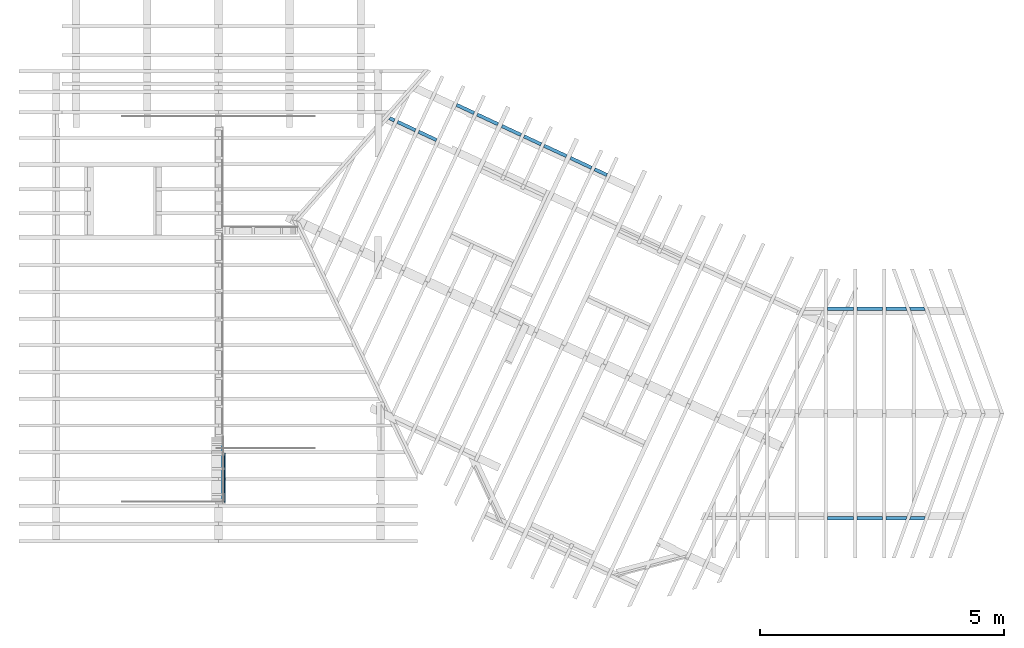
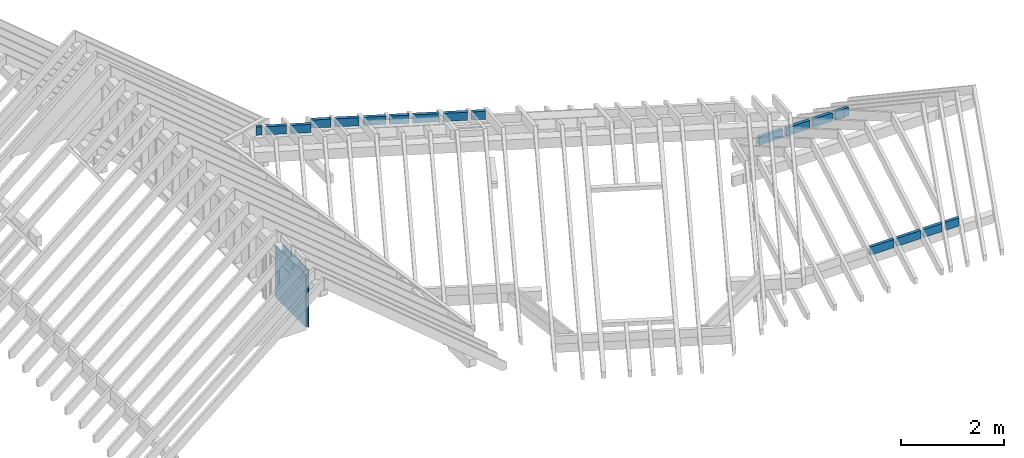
# One storey, part 9 of 11: 18 members, 2 plates.
"""IFC2X3 building model written with IfcOpenShell, lengths in metres."""

from ifc_helpers import new_model, si_unit, direction, frame, origin_with_axes, place, context, subcontext, project, spatial, faceted_brep, material, element, save


model = new_model("IFC2X3")

# Units and contexts
model_context = context("Model", 3, precision=1e-06, world=origin_with_axes(), true_north=direction((0.0, 1.0, 0.0)))
body_context = subcontext(model_context, "Body", "Model", "MODEL_VIEW")
ifc_project = project(units=[si_unit("LENGTHUNIT", "METRE"), si_unit("AREAUNIT", "SQUARE_METRE"), si_unit("VOLUMEUNIT", "CUBIC_METRE"), si_unit("PLANEANGLEUNIT", "RADIAN")], contexts=[model_context])

# Site, building, storey
site_placement = place(None, origin_with_axes())
site = spatial("IfcSite", under=ifc_project, at=site_placement, CompositionType="ELEMENT")
building_placement = place(site_placement, origin_with_axes())
building = spatial("IfcBuilding", under=site, at=building_placement, Name="Building 1", CompositionType="ELEMENT")
storey_placement = place(building_placement, origin_with_axes())
storey = spatial("IfcBuildingStorey", under=building, at=storey_placement, Name="Comble et couverture", CompositionType="ELEMENT", Elevation=0.0)

# Members
ifc_material_1 = material(Name="NH II")
member_1_placement = place(storey_placement, frame((17.054553, -0.3402201, 3.276), z_axis=(0.0, 0.0, 1.0), x_axis=(1.0, 0.0, 0.0)))
element("IfcMember", 1, at=member_1_placement, inside=storey, material=ifc_material_1, Name="Cache moineau", context=body_context, shape_type="Brep", body=[
    faceted_brep([(0.0, 0.035, -0.096), (0.0, -0.035, -0.096), (0.0, -0.035, 0.096), (0.0, 0.035, 0.096), (0.404725, -0.035, -0.096), (0.404725, -0.035, 0.096), (0.4302029, 0.035, -0.096), (0.4302029, 0.035, 0.096)], [[[0, 1, 2, 3]], [[2, 1, 4, 5]], [[1, 0, 6, 4]], [[5, 4, 6, 7]], [[3, 2, 5, 7]], [[0, 3, 7, 6]]]),
])
for number, where, z_axis, x_axis in (
    (2, (16.454553, -0.3402201, 3.276), (0.0, 0.0, 1.0), (1.0, 0.0, 0.0)),
    (3, (15.854553, -0.3402201, 3.276), (0.0, 0.0, 1.0), (1.0, 0.0, 0.0)),
    (4, (16.454553, 3.9597799, 3.276), (0.0, 0.0, 1.0), (1.0, 0.0, 0.0)),
):
    element("IfcMember", number, at=place(storey_placement, frame(where, z_axis=z_axis, x_axis=x_axis)), inside=storey, material=ifc_material_1, Name="Cache moineau", context=body_context, shape_type="Brep", body=[
        faceted_brep([(0.0, -0.035, 0.096), (0.0, 0.035, 0.096), (0.0, 0.035, -0.096), (0.0, -0.035, -0.096), (0.53, 0.035, 0.096), (0.53, 0.035, -0.096), (0.53, -0.035, 0.096), (0.53, -0.035, -0.096)], [[[0, 1, 2, 3]], [[2, 1, 4, 5]], [[1, 0, 6, 4]], [[5, 4, 6, 7]], [[3, 2, 5, 7]], [[0, 3, 7, 6]]]),
    ])
member_2_placement = place(storey_placement, frame((17.054553, 3.9597799, 3.276), z_axis=(0.0, 0.0, 1.0), x_axis=(1.0, 0.0, 0.0)))
element("IfcMember", 5, at=member_2_placement, inside=storey, material=ifc_material_1, Name="Cache moineau", context=body_context, shape_type="Brep", body=[
    faceted_brep([(0.0, 0.035, -0.096), (0.0, -0.035, -0.096), (0.0, -0.035, 0.096), (0.0, 0.035, 0.096), (0.430203, -0.035, -0.096), (0.430203, -0.035, 0.096), (0.4047251, 0.035, -0.096), (0.4047251, 0.035, 0.096)], [[[0, 1, 2, 3]], [[2, 1, 4, 5]], [[1, 0, 6, 4]], [[5, 4, 6, 7]], [[3, 2, 5, 7]], [[0, 3, 7, 6]]]),
])
member_3_placement = place(storey_placement, frame((17.5337705, 3.9597799, 3.276), z_axis=(0.0, 0.0, 1.0), x_axis=(1.0, 0.0, 0.0)))
element("IfcMember", 6, at=member_3_placement, inside=storey, material=ifc_material_1, Name="Cache moineau", context=body_context, shape_type="Brep", body=[
    faceted_brep([(0.0254779, -0.035, 0.096), (0.0, 0.035, 0.096), (0.0, 0.035, -0.096), (0.0254779, -0.035, -0.096), (0.2999056, 0.035, 0.096), (0.2999056, 0.035, -0.096), (0.3253835, -0.035, 0.096), (0.3253835, -0.035, -0.096)], [[[0, 1, 2, 3]], [[2, 1, 4, 5]], [[1, 0, 6, 4]], [[4, 6, 7, 5]], [[3, 2, 5, 7]], [[0, 3, 7, 6]]]),
])
member_4_placement = place(storey_placement, frame((15.854553, 3.9597799, 3.276), z_axis=(0.0, 0.0, 1.0), x_axis=(1.0, 0.0, 0.0)))
element("IfcMember", 7, at=member_4_placement, inside=storey, material=ifc_material_1, Name="Cache moineau", context=body_context, shape_type="Brep", body=[
    faceted_brep([(0.0, -0.035, 0.096), (0.0, 0.035, 0.096), (0.0, 0.035, -0.096), (0.0, -0.035, -0.096), (0.53, 0.035, 0.096), (0.53, 0.035, -0.096), (0.53, -0.035, 0.096), (0.53, -0.035, -0.096)], [[[0, 1, 2, 3]], [[2, 1, 4, 5]], [[1, 0, 6, 4]], [[5, 4, 6, 7]], [[3, 2, 5, 7]], [[0, 3, 7, 6]]]),
])
member_5_placement = place(storey_placement, frame((17.5337705, -0.3402201, 3.276), z_axis=(0.0, 0.0, 1.0), x_axis=(1.0, 0.0, 0.0)))
element("IfcMember", 8, at=member_5_placement, inside=storey, material=ifc_material_1, Name="Cache moineau", context=body_context, shape_type="Brep", body=[
    faceted_brep([(0.0, -0.035, 0.096), (0.0254779, 0.035, 0.096), (0.0254779, 0.035, -0.096), (0.0, -0.035, -0.096), (0.3253836, 0.035, 0.096), (0.3253836, 0.035, -0.096), (0.2999057, -0.035, 0.096), (0.2999057, -0.035, -0.096)], [[[0, 1, 2, 3]], [[2, 1, 4, 5]], [[1, 0, 6, 4]], [[4, 6, 7, 5]], [[3, 2, 5, 7]], [[0, 3, 7, 6]]]),
])
member_6_placement = place(storey_placement, frame((7.0295991, 7.7967985, 4.2870549), z_axis=(0.0, 0.0, 1.0), x_axis=(0.9063078, -0.4226183, 0.0)))
element("IfcMember", 9, at=member_6_placement, inside=storey, material=ifc_material_1, Name="Cache moineau", context=body_context, shape_type="Brep", body=[
    faceted_brep([(0.4063936, -0.035, 0.096), (0.4063936, -0.035, -0.096), (0.4063936, 0.035, -0.096), (0.4063936, 0.035, 0.096), (0.0, -0.035, -0.096), (0.0, 0.035, -0.096), (0.0, -0.035, 0.096), (0.0, 0.035, 0.096)], [[[0, 1, 2, 3]], [[2, 1, 4, 5]], [[1, 0, 6, 4]], [[5, 4, 6, 7]], [[3, 2, 5, 7]], [[0, 3, 7, 6]]]),
])
member_7_placement = place(storey_placement, frame((8.6643852, 7.9483225, 3.8088831), z_axis=(0.0, 0.0, 1.0), x_axis=(0.9063078, -0.4226183, 0.0)))
element("IfcMember", 10, at=member_7_placement, inside=storey, material=ifc_material_1, Name="Cache moineau", context=body_context, shape_type="Brep", body=[
    faceted_brep([(0.4682048, 0.035, 0.096), (0.4682048, -0.035, 0.096), (0.4682048, -0.035, -0.096), (0.4682048, 0.035, -0.096), (0.0, -0.035, 0.096), (0.0, -0.035, -0.096), (0.0, 0.035, 0.096), (0.0, 0.035, -0.096)], [[[0, 1, 2, 3]], [[2, 1, 4, 5]], [[1, 0, 6, 4]], [[5, 4, 6, 7]], [[3, 2, 5, 7]], [[0, 3, 7, 6]]]),
])
member_8_placement = place(storey_placement, frame((9.1721244, 7.7116153, 3.8088831), z_axis=(0.0, 0.0, 1.0), x_axis=(0.9063078, -0.4226183, 0.0)))
element("IfcMember", 11, at=member_8_placement, inside=storey, material=ifc_material_1, Name="Cache moineau", context=body_context, shape_type="Brep", body=[
    faceted_brep([(0.433, 0.035, 0.096), (0.433, -0.035, 0.096), (0.433, -0.035, -0.096), (0.433, 0.035, -0.096), (0.0, -0.035, 0.096), (0.0, -0.035, -0.096), (0.0, 0.035, 0.096), (0.0, 0.035, -0.096)], [[[0, 1, 2, 3]], [[2, 1, 4, 5]], [[1, 0, 6, 4]], [[5, 4, 6, 7]], [[3, 2, 5, 7]], [[0, 3, 7, 6]]]),
])
member_9_placement = place(storey_placement, frame((8.2431377, 8.1447534, 3.8088831), z_axis=(0.0, 0.0, 1.0), x_axis=(0.9063078, -0.4226183, 0.0)))
element("IfcMember", 12, at=member_9_placement, inside=storey, material=ifc_material_1, Name="Cache moineau", context=body_context, shape_type="Brep", body=[
    faceted_brep([(0.3947953, -0.035, -0.096), (0.3947953, 0.035, -0.096), (0.3947953, 0.035, 0.096), (0.3947953, -0.035, 0.096), (0.0, 0.035, -0.096), (0.0, 0.035, 0.096), (0.0, -0.035, -0.096), (0.0, -0.035, 0.096)], [[[0, 1, 2, 3]], [[2, 1, 4, 5]], [[1, 0, 6, 4]], [[0, 3, 7, 6]], [[3, 2, 5, 7]], [[5, 4, 6, 7]]]),
])
member_10_placement = place(storey_placement, frame((10.5786929, 7.0556662, 3.8088831), z_axis=(0.0, 0.0, 1.0), x_axis=(0.9063078, -0.4226183, 0.0)))
element("IfcMember", 13, at=member_10_placement, inside=storey, material=ifc_material_1, Name="Cache moineau", context=body_context, shape_type="Brep", body=[
    faceted_brep([(0.0, -0.035, -0.096), (0.0, -0.035, 0.096), (0.0, 0.035, 0.096), (0.0, 0.035, -0.096), (0.476, -0.035, 0.096), (0.476, 0.035, 0.096), (0.476, -0.035, -0.096), (0.476, 0.035, -0.096)], [[[0, 1, 2, 3]], [[2, 1, 4, 5]], [[1, 0, 6, 4]], [[0, 3, 7, 6]], [[7, 5, 4, 6]], [[3, 2, 5, 7]]]),
])
member_11_placement = place(storey_placement, frame((9.627976, 7.4989927, 3.8088831), z_axis=(0.0, 0.0, 1.0), x_axis=(0.9063078, -0.4226183, 0.0)))
element("IfcMember", 14, at=member_11_placement, inside=storey, material=ifc_material_1, Name="Cache moineau", context=body_context, shape_type="Brep", body=[
    faceted_brep([(0.384, -0.035, -0.096), (0.384, 0.035, -0.096), (0.384, 0.035, 0.096), (0.384, -0.035, 0.096), (0.0, 0.035, -0.096), (0.0, 0.035, 0.096), (0.0, -0.035, -0.096), (0.0, -0.035, 0.096)], [[[0, 1, 2, 3]], [[2, 1, 4, 5]], [[1, 0, 6, 4]], [[5, 4, 6, 7]], [[3, 2, 5, 7]], [[0, 3, 7, 6]]]),
])
member_12_placement = place(storey_placement, frame((10.0394397, 7.307124, 3.8088831), z_axis=(0.0, 0.0, 1.0), x_axis=(0.9063078, -0.4226183, 0.0)))
element("IfcMember", 15, at=member_12_placement, inside=storey, material=ifc_material_1, Name="Cache moineau", context=body_context, shape_type="Brep", body=[
    faceted_brep([(0.503, 0.035, 0.096), (0.503, -0.035, 0.096), (0.503, -0.035, -0.096), (0.503, 0.035, -0.096), (0.0, -0.035, 0.096), (0.0, -0.035, -0.096), (0.0, 0.035, 0.096), (0.0, 0.035, -0.096)], [[[0, 1, 2, 3]], [[2, 1, 4, 5]], [[1, 0, 6, 4]], [[5, 4, 6, 7]], [[3, 2, 5, 7]], [[0, 3, 7, 6]]]),
])
member_13_placement = place(storey_placement, frame((6.9661576, 7.8263818, 4.2870549), z_axis=(0.0, 0.0, 1.0), x_axis=(-0.9063078, 0.4226183, 0.0)))
element("IfcMember", 16, at=member_13_placement, inside=storey, material=ifc_material_1, Name="Cache moineau", context=body_context, shape_type="Brep", body=[
    faceted_brep([(0.0, -0.035, -0.096), (0.0, -0.035, 0.096), (0.0, 0.035, 0.096), (0.0, 0.035, -0.096), (0.0995575, -0.035, 0.096), (0.1200592, 0.035, 0.096), (0.0995575, -0.035, -0.096), (0.1200592, 0.035, -0.096)], [[[0, 1, 2, 3]], [[2, 1, 4, 5]], [[1, 0, 6, 4]], [[0, 3, 7, 6]], [[3, 2, 5, 7]], [[6, 7, 5, 4]]]),
])
member_14_placement = place(storey_placement, frame((7.4613584, 7.5954658, 4.2870549), z_axis=(0.0, 0.0, 1.0), x_axis=(0.9063078, -0.4226183, 0.0)))
element("IfcMember", 17, at=member_14_placement, inside=storey, material=ifc_material_1, Name="Cache moineau", context=body_context, shape_type="Brep", body=[
    faceted_brep([(0.4063936, -0.035, 0.096), (0.4063936, -0.035, -0.096), (0.4063936, 0.035, -0.096), (0.4063936, 0.035, 0.096), (0.0, -0.035, -0.096), (0.0, 0.035, -0.096), (0.0, -0.035, 0.096), (0.0, 0.035, 0.096)], [[[0, 1, 2, 3]], [[2, 1, 4, 5]], [[1, 0, 6, 4]], [[5, 4, 6, 7]], [[3, 2, 5, 7]], [[0, 3, 7, 6]]]),
])
member_15_placement = place(storey_placement, frame((11.0735369, 6.8249166, 3.8088831), z_axis=(0.0, 0.0, 1.0), x_axis=(0.9063078, -0.4226183, 0.0)))
element("IfcMember", 18, at=member_15_placement, inside=storey, material=ifc_material_1, Name="Cache moineau", context=body_context, shape_type="Brep", body=[
    faceted_brep([(0.0, -0.035, 0.096), (0.0, 0.035, 0.096), (0.0, 0.035, -0.096), (0.0, -0.035, -0.096), (0.279, 0.035, 0.096), (0.279, 0.035, -0.096), (0.279, -0.035, 0.096), (0.279, -0.035, -0.096)], [[[0, 1, 2, 3]], [[2, 1, 4, 5]], [[1, 0, 6, 4]], [[0, 3, 7, 6]], [[3, 2, 5, 7]], [[5, 4, 6, 7]]]),
])

# Plates
ifc_material_2 = material(Name="OSB")
plate_1_placement = place(storey_placement, frame((3.442, 0.61, 5.5854713), z_axis=(1.0, 0.0, 0.0), x_axis=(0.0, 0.0, 1.0)))
element("IfcPlate", 19, at=plate_1_placement, inside=storey, material=ifc_material_2, Name="Panneau de contreventement MFP", context=body_context, shape_type="Brep", body=[
    faceted_brep([(0.0, -0.598, 0.006), (1.245, -0.598, 0.006), (1.245, 0.598, 0.006), (0.0, 0.598, 0.006), (1.245, -0.598, -0.006), (1.245, 0.598, -0.006), (0.0, 0.598, -0.006), (0.0, -0.598, -0.006)], [[[0, 1, 2, 3]], [[1, 4, 5, 2]], [[6, 3, 2, 5]], [[7, 0, 3, 6]], [[4, 7, 6, 5]], [[4, 1, 0, 7]]]),
])
ifc_material_3 = material(Name="Mélèze")
plate_2_placement = place(storey_placement, frame((3.4835, 0.4939141, 5.5854713), z_axis=(1.0, 0.0, 0.0), x_axis=(0.0, 0.0, 1.0)))
element("IfcPlate", 20, at=plate_2_placement, inside=storey, material=ifc_material_3, Name="Bardage", context=body_context, shape_type="Brep", body=[
    faceted_brep([(0.0, -0.5019141, -0.0105), (0.0, 0.5019141, -0.0105), (1.3669012, 0.5019141, -0.0105), (1.3669012, -0.5019141, -0.0105), (1.3669012, 0.5019141, 0.0105), (1.3669012, -0.5019141, 0.0105), (0.0, 0.5019141, 0.0105), (0.0, -0.5019141, 0.0105)], [[[0, 1, 2, 3]], [[3, 2, 4, 5]], [[6, 7, 5, 4]], [[6, 1, 0, 7]], [[1, 6, 4, 2]], [[7, 0, 3, 5]]]),
])

save(model, "model.ifc")
